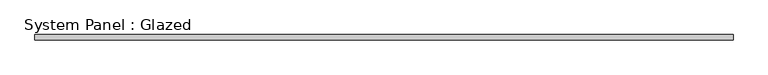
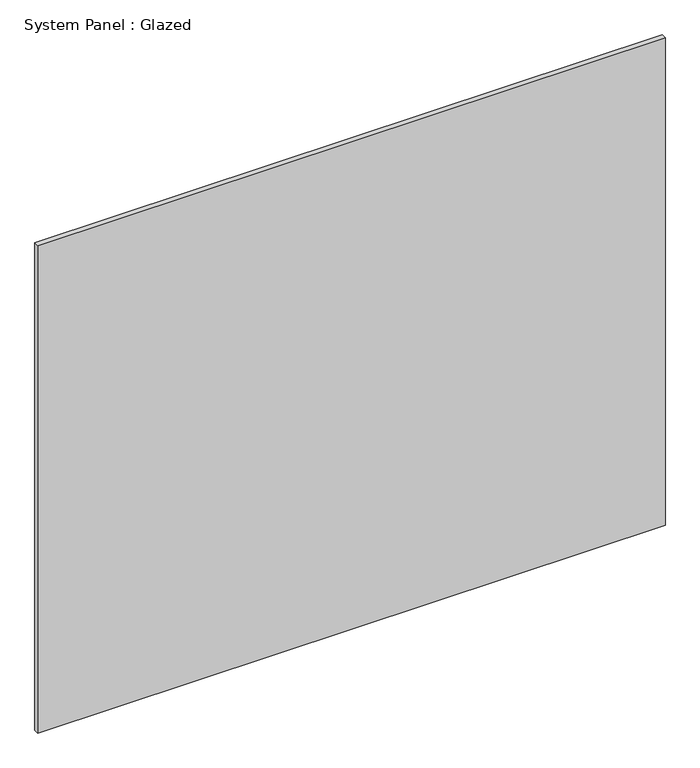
"""IFC4 building model written with IfcOpenShell, lengths in millimetres: plate geometry, System Panel : Glazed."""

from ifc_helpers import new_model, si_unit, origin, origin_with_axes, place, context, project, spatial, polyline, outline, extrude, source, transform, mapped, element, save


def system_panel_glazed_208994a9(model_context):
    return source(origin(), model_context, "Body", "SweptSolid", [
        extrude(outline(polyline([(1675.0, -49.5), (-1675.0, -49.5), (-1675.0, -24.5), (1675.0, -24.5), (1675.0, -49.5)])), origin_with_axes(), (0.0, 0.0, 1.0), 2750.0),
    ])


if __name__ == "__main__":
    model = new_model("IFC4")
    model_context = context("Model", 3, world=origin())
    ifc_project = project(units=[si_unit("LENGTHUNIT", "METRE", prefix="MILLI")], contexts=[model_context])
    site = spatial("IfcSite", under=ifc_project)
    building = spatial("IfcBuilding", under=site)
    placement = place(None, origin())
    system_panel_glazed_shape = system_panel_glazed_208994a9(model_context)
    element("IfcPlate", 1, ObjectType="System Panel : Glazed", at=placement, inside=building, context=model_context, shape_type="MappedRepresentation", body=[
        mapped(system_panel_glazed_shape, transform((0.0, 0.0, 0.0), x_axis=(1.0, 0.0, 0.0), y_axis=(0.0, 1.0, 0.0), z_axis=(0.0, 0.0, 1.0))),
    ])
    save(model, "model.ifc")
